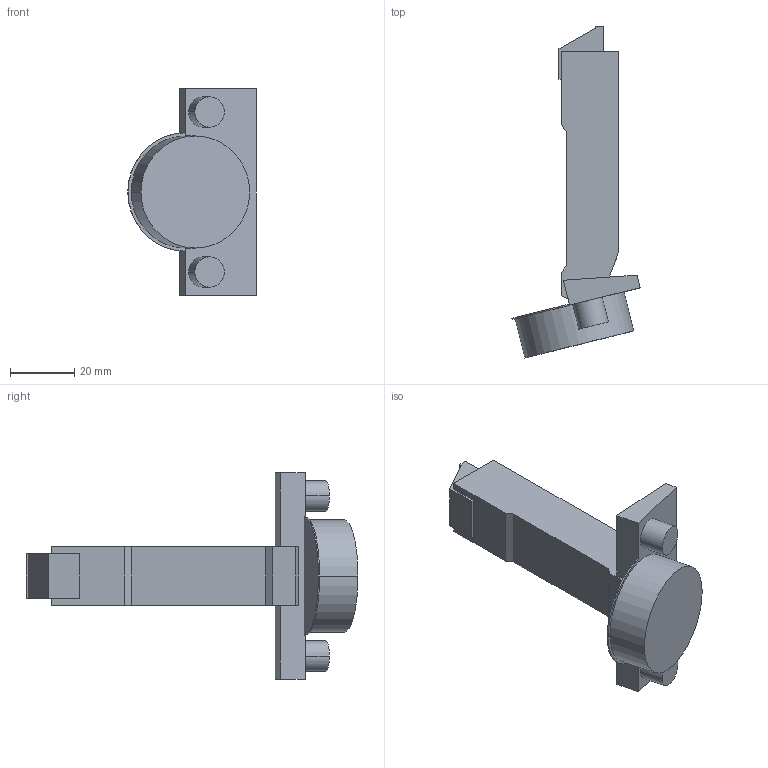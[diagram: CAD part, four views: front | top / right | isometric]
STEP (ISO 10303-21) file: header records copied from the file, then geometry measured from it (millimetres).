
FILE_DESCRIPTION (( 'STEP AP214' ), '1' );
FILE_NAME ('Scharnier T Impresso 120°_-15° HS_BB, aufliegend.step', '2010-12-13T09:58:19', ( 'grass' ), ( '' ), 'SwSTEP 2.0', 'SolidWorks 2010', '' );
FILE_SCHEMA (( 'AUTOMOTIVE_DESIGN' ));
Length unit declared in the file: millimetre
Products named in the file (1): Scharnier T Impresso 120°_-15° HS_BB, aufliegend
Bounding box: 40.12 x 103.72 x 64.5 mm (x, y, z)
Volume: 44850.1 mm3; surface area: 12551.3 mm2
Topology: 1 solids, 3 shells, 56 faces, 132 edges, 88 vertices
Faces by surface type: plane 39, cylinder 17
Entity records: 1640 total; most frequent: DIRECTION 280, CARTESIAN_POINT 277, ORIENTED_EDGE 264, EDGE_CURVE 132, LINE 98, VECTOR 98, AXIS2_PLACEMENT_3D 91, VERTEX_POINT 88
